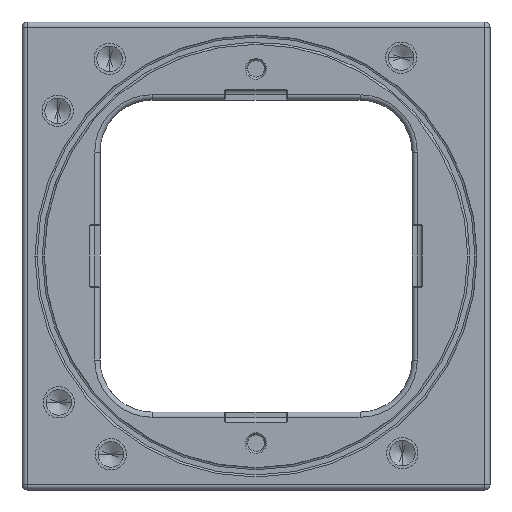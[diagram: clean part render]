
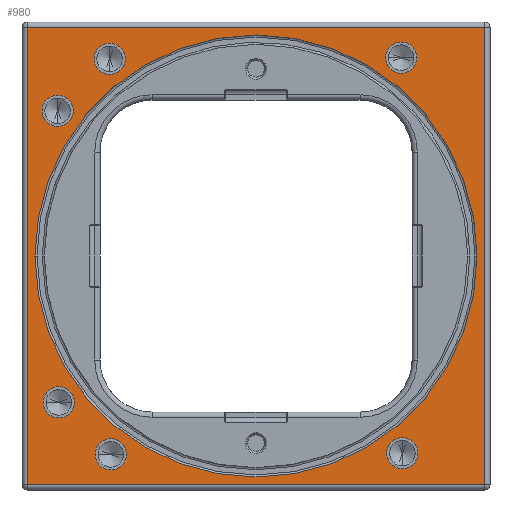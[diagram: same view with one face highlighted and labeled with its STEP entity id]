
A CAD part, front view. The second image highlights one B-rep face of the part: STEP entity #980.
In plain terms, the highlighted planar face has unit normal (0, -1, 0).
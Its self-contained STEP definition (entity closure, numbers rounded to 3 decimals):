
#980=ADVANCED_FACE('',(#2178,#2179,#2180,#2181,#2182,#2183,#2184,#1578),#5792,
.T.);
#1578=FACE_OUTER_BOUND('',#2246,.F.);
#2178=FACE_BOUND('',#2239,.F.);
#2179=FACE_BOUND('',#2240,.F.);
#2180=FACE_BOUND('',#2241,.F.);
#2181=FACE_BOUND('',#2242,.F.);
#2182=FACE_BOUND('',#2243,.F.);
#2183=FACE_BOUND('',#2244,.F.);
#2184=FACE_BOUND('',#2245,.F.);
#2239=EDGE_LOOP('',(#2931,#2932));
#2240=EDGE_LOOP('',(#2933,#2934));
#2241=EDGE_LOOP('',(#2935,#2936));
#2242=EDGE_LOOP('',(#2937,#2938));
#2243=EDGE_LOOP('',(#2939,#2940));
#2244=EDGE_LOOP('',(#2941,#2942));
#2245=EDGE_LOOP('',(#2943,#2944));
#2246=EDGE_LOOP('',(#2945,#2946,#2947,#2948));
#2931=ORIENTED_EDGE('',*,*,#10864,.T.);
#2932=ORIENTED_EDGE('',*,*,#10862,.T.);
#2933=ORIENTED_EDGE('',*,*,#10730,.T.);
#2934=ORIENTED_EDGE('',*,*,#10731,.T.);
#2935=ORIENTED_EDGE('',*,*,#10728,.T.);
#2936=ORIENTED_EDGE('',*,*,#10729,.T.);
#2937=ORIENTED_EDGE('',*,*,#10726,.T.);
#2938=ORIENTED_EDGE('',*,*,#10727,.T.);
#2939=ORIENTED_EDGE('',*,*,#10724,.T.);
#2940=ORIENTED_EDGE('',*,*,#10725,.T.);
#2941=ORIENTED_EDGE('',*,*,#10722,.T.);
#2942=ORIENTED_EDGE('',*,*,#10723,.T.);
#2943=ORIENTED_EDGE('',*,*,#10720,.T.);
#2944=ORIENTED_EDGE('',*,*,#10721,.T.);
#2945=ORIENTED_EDGE('',*,*,#10845,.F.);
#2946=ORIENTED_EDGE('',*,*,#10844,.T.);
#2947=ORIENTED_EDGE('',*,*,#10843,.T.);
#2948=ORIENTED_EDGE('',*,*,#10842,.F.);
#5792=PLANE('',#14472);
#9252=LINE('',#19430,#10010);
#9253=LINE('',#19431,#10011);
#9254=LINE('',#19432,#10012);
#9255=LINE('',#19433,#10013);
#10010=VECTOR('',#15271,44.);
#10011=VECTOR('',#15272,44.);
#10012=VECTOR('',#15273,44.);
#10013=VECTOR('',#15274,44.);
#10720=EDGE_CURVE('',#13758,#13757,#12169,.T.);
#10721=EDGE_CURVE('',#13757,#13758,#12170,.T.);
#10722=EDGE_CURVE('',#13756,#13755,#12171,.T.);
#10723=EDGE_CURVE('',#13755,#13756,#12172,.T.);
#10724=EDGE_CURVE('',#13754,#13753,#12173,.T.);
#10725=EDGE_CURVE('',#13753,#13754,#12174,.T.);
#10726=EDGE_CURVE('',#13752,#13751,#12175,.T.);
#10727=EDGE_CURVE('',#13751,#13752,#12176,.T.);
#10728=EDGE_CURVE('',#13750,#13749,#12177,.T.);
#10729=EDGE_CURVE('',#13749,#13750,#12178,.T.);
#10730=EDGE_CURVE('',#13748,#13747,#12179,.T.);
#10731=EDGE_CURVE('',#13747,#13748,#12180,.T.);
#10842=EDGE_CURVE('',#13583,#13582,#9252,.T.);
#10843=EDGE_CURVE('',#13581,#13582,#9253,.T.);
#10844=EDGE_CURVE('',#13580,#13581,#9254,.T.);
#10845=EDGE_CURVE('',#13580,#13583,#9255,.T.);
#10862=EDGE_CURVE('',#13564,#13563,#12247,.T.);
#10864=EDGE_CURVE('',#13563,#13564,#12249,.T.);
#12169=CIRCLE('',#13788,1.5);
#12170=CIRCLE('',#13789,1.5);
#12171=CIRCLE('',#13790,1.5);
#12172=CIRCLE('',#13791,1.5);
#12173=CIRCLE('',#13792,1.5);
#12174=CIRCLE('',#13793,1.5);
#12175=CIRCLE('',#13794,1.5);
#12176=CIRCLE('',#13795,1.5);
#12177=CIRCLE('',#13796,1.5);
#12178=CIRCLE('',#13797,1.5);
#12179=CIRCLE('',#13798,1.5);
#12180=CIRCLE('',#13799,1.5);
#12247=CIRCLE('',#13866,21.25);
#12249=CIRCLE('',#13868,21.25);
#13563=VERTEX_POINT('',#19112);
#13564=VERTEX_POINT('',#19113);
#13580=VERTEX_POINT('',#19129);
#13581=VERTEX_POINT('',#19130);
#13582=VERTEX_POINT('',#19131);
#13583=VERTEX_POINT('',#19132);
#13747=VERTEX_POINT('',#19296);
#13748=VERTEX_POINT('',#19297);
#13749=VERTEX_POINT('',#19298);
#13750=VERTEX_POINT('',#19299);
#13751=VERTEX_POINT('',#19300);
#13752=VERTEX_POINT('',#19301);
#13753=VERTEX_POINT('',#19302);
#13754=VERTEX_POINT('',#19303);
#13755=VERTEX_POINT('',#19304);
#13756=VERTEX_POINT('',#19305);
#13757=VERTEX_POINT('',#19306);
#13758=VERTEX_POINT('',#19307);
#13788=AXIS2_PLACEMENT_3D('',#19308,#15075,#15076);
#13789=AXIS2_PLACEMENT_3D('',#19309,#15077,#15078);
#13790=AXIS2_PLACEMENT_3D('',#19310,#15079,#15080);
#13791=AXIS2_PLACEMENT_3D('',#19311,#15081,#15082);
#13792=AXIS2_PLACEMENT_3D('',#19312,#15083,#15084);
#13793=AXIS2_PLACEMENT_3D('',#19313,#15085,#15086);
#13794=AXIS2_PLACEMENT_3D('',#19314,#15087,#15088);
#13795=AXIS2_PLACEMENT_3D('',#19315,#15089,#15090);
#13796=AXIS2_PLACEMENT_3D('',#19316,#15091,#15092);
#13797=AXIS2_PLACEMENT_3D('',#19317,#15093,#15094);
#13798=AXIS2_PLACEMENT_3D('',#19318,#15095,#15096);
#13799=AXIS2_PLACEMENT_3D('',#19319,#15097,#15098);
#13866=AXIS2_PLACEMENT_3D('',#19450,#15295,#15296);
#13868=AXIS2_PLACEMENT_3D('',#19452,#15299,#15300);
#14472=AXIS2_PLACEMENT_3D('',#20894,#17201,#17202);
#15075=DIRECTION('',(0.,-1.,0.));
#15076=DIRECTION('',(0.,0.,-1.));
#15077=DIRECTION('',(0.,-1.,0.));
#15078=DIRECTION('',(0.,0.,1.));
#15079=DIRECTION('',(0.,-1.,0.));
#15080=DIRECTION('',(-1.,0.,0.));
#15081=DIRECTION('',(0.,-1.,0.));
#15082=DIRECTION('',(1.,0.,0.));
#15083=DIRECTION('',(0.,-1.,0.));
#15084=DIRECTION('',(0.,0.,1.));
#15085=DIRECTION('',(0.,-1.,0.));
#15086=DIRECTION('',(0.,0.,-1.));
#15087=DIRECTION('',(0.,-1.,0.));
#15088=DIRECTION('',(1.,0.,0.));
#15089=DIRECTION('',(0.,-1.,0.));
#15090=DIRECTION('',(-1.,0.,0.));
#15091=DIRECTION('',(0.,-1.,0.));
#15092=DIRECTION('',(0.,0.,1.));
#15093=DIRECTION('',(0.,-1.,0.));
#15094=DIRECTION('',(0.,0.,-1.));
#15095=DIRECTION('',(0.,-1.,0.));
#15096=DIRECTION('',(-1.,0.,0.));
#15097=DIRECTION('',(0.,-1.,0.));
#15098=DIRECTION('',(1.,0.,0.));
#15271=DIRECTION('',(1.,0.,0.));
#15272=DIRECTION('',(0.,0.,-1.));
#15273=DIRECTION('',(1.,0.,0.));
#15274=DIRECTION('',(0.,0.,-1.));
#15295=DIRECTION('',(0.,-1.,0.));
#15296=DIRECTION('',(-1.,0.,0.));
#15299=DIRECTION('',(0.,-1.,0.));
#15300=DIRECTION('',(1.,0.,0.));
#17201=DIRECTION('',(0.,-1.,0.));
#17202=DIRECTION('',(1.,0.,0.));
#19112=CARTESIAN_POINT('',(-173.,473.5,-373.25));
#19113=CARTESIAN_POINT('',(-215.5,473.5,-373.25));
#19129=CARTESIAN_POINT('',(-216.25,473.5,-351.25));
#19130=CARTESIAN_POINT('',(-172.25,473.5,-351.25));
#19131=CARTESIAN_POINT('',(-172.25,473.5,-395.25));
#19132=CARTESIAN_POINT('',(-216.25,473.5,-395.25));
#19296=CARTESIAN_POINT('',(-206.71,473.5,-392.323));
#19297=CARTESIAN_POINT('',(-209.71,473.5,-392.323));
#19298=CARTESIAN_POINT('',(-213.323,473.5,-360.79));
#19299=CARTESIAN_POINT('',(-213.323,473.5,-357.79));
#19300=CARTESIAN_POINT('',(-181.79,473.5,-354.177));
#19301=CARTESIAN_POINT('',(-178.79,473.5,-354.177));
#19302=CARTESIAN_POINT('',(-208.323,473.5,-355.79));
#19303=CARTESIAN_POINT('',(-208.323,473.5,-352.79));
#19304=CARTESIAN_POINT('',(-211.71,473.5,-387.323));
#19305=CARTESIAN_POINT('',(-214.71,473.5,-387.323));
#19306=CARTESIAN_POINT('',(-180.177,473.5,-390.71));
#19307=CARTESIAN_POINT('',(-180.177,473.5,-393.71));
#19308=CARTESIAN_POINT('',(-180.177,473.5,-392.21));
#19309=CARTESIAN_POINT('',(-180.177,473.5,-392.21));
#19310=CARTESIAN_POINT('',(-213.21,473.5,-387.323));
#19311=CARTESIAN_POINT('',(-213.21,473.5,-387.323));
#19312=CARTESIAN_POINT('',(-208.323,473.5,-354.29));
#19313=CARTESIAN_POINT('',(-208.323,473.5,-354.29));
#19314=CARTESIAN_POINT('',(-180.29,473.5,-354.177));
#19315=CARTESIAN_POINT('',(-180.29,473.5,-354.177));
#19316=CARTESIAN_POINT('',(-213.323,473.5,-359.29));
#19317=CARTESIAN_POINT('',(-213.323,473.5,-359.29));
#19318=CARTESIAN_POINT('',(-208.21,473.5,-392.323));
#19319=CARTESIAN_POINT('',(-208.21,473.5,-392.323));
#19430=CARTESIAN_POINT('',(-216.25,473.5,-395.25));
#19431=CARTESIAN_POINT('',(-172.25,473.5,-351.25));
#19432=CARTESIAN_POINT('',(-216.25,473.5,-351.25));
#19433=CARTESIAN_POINT('',(-216.25,473.5,-351.25));
#19450=CARTESIAN_POINT('',(-194.25,473.5,-373.25));
#19452=CARTESIAN_POINT('',(-194.25,473.5,-373.25));
#20894=CARTESIAN_POINT('',(-216.75,473.5,-395.75));
